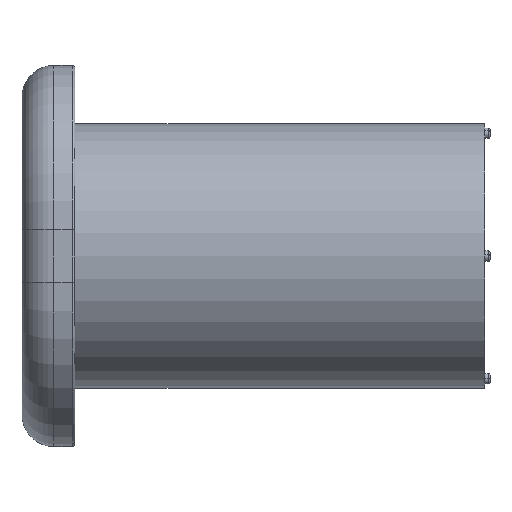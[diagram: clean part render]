
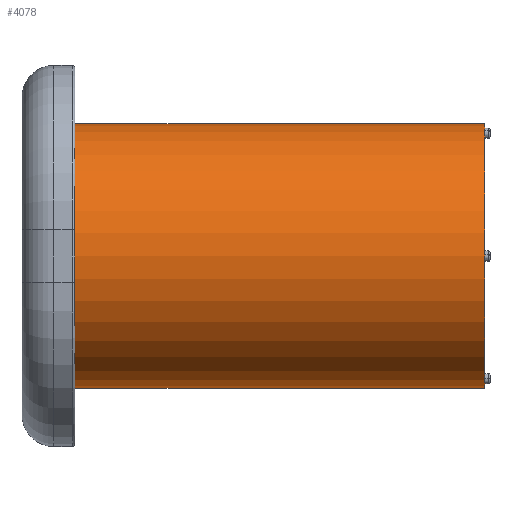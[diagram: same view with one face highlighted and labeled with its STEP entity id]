
A CAD part, left-side view. The second image highlights one B-rep face of the part: STEP entity #4078.
In plain terms, the highlighted cylindrical face has radius 125 mm (diameter 250 mm), a partial arc.
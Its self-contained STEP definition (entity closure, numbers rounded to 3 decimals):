
#2796 = VECTOR ( 'NONE', #38464, 1000. ) ;
#4078 = ADVANCED_FACE ( 'NONE', ( #90812 ), #74968, .T. ) ;
#7555 = DIRECTION ( 'NONE',  ( 0., 1., 0. ) ) ;
#8088 = CARTESIAN_POINT ( 'NONE',  ( -57.48, 222.693, 142.756 ) ) ;
#11030 = VECTOR ( 'NONE', #30263, 1000. ) ;
#15588 = CARTESIAN_POINT ( 'NONE',  ( -57.48, 222.693, 17.756 ) ) ;
#18135 = EDGE_CURVE ( 'NONE', #91763, #97501, #47866, .T. ) ;
#18886 = AXIS2_PLACEMENT_3D ( 'NONE', #55895, #55428, #47015 ) ;
#22368 = CARTESIAN_POINT ( 'NONE',  ( -57.48, -205.307, 142.756 ) ) ;
#24899 = CARTESIAN_POINT ( 'NONE',  ( -57.48, -202.307, -107.244 ) ) ;
#30080 = CARTESIAN_POINT ( 'NONE',  ( -57.48, -205.307, -107.244 ) ) ;
#30263 = DIRECTION ( 'NONE',  ( 0., 1., 0. ) ) ;
#33612 = VERTEX_POINT ( 'NONE', #24899 ) ;
#34699 = CARTESIAN_POINT ( 'NONE',  ( -57.48, 222.693, -107.244 ) ) ;
#37275 = CARTESIAN_POINT ( 'NONE',  ( -57.48, -205.307, 17.756 ) ) ;
#38464 = DIRECTION ( 'NONE',  ( 0., 1., 0. ) ) ;
#43845 = ORIENTED_EDGE ( 'NONE', *, *, #18135, .F. ) ;
#45546 = ORIENTED_EDGE ( 'NONE', *, *, #91120, .F. ) ;
#47015 = DIRECTION ( 'NONE',  ( 0., 0., -1. ) ) ;
#47866 = CIRCLE ( 'NONE', #82733, 125. ) ;
#51778 = DIRECTION ( 'NONE',  ( 0., 0., -1. ) ) ;
#55428 = DIRECTION ( 'NONE',  ( 0., 1., 0. ) ) ;
#55895 = CARTESIAN_POINT ( 'NONE',  ( -57.48, -202.307, 17.756 ) ) ;
#61481 = LINE ( 'NONE', #22368, #11030 ) ;
#63747 = EDGE_CURVE ( 'NONE', #67760, #97501, #61481, .T. ) ;
#67013 = EDGE_LOOP ( 'NONE', ( #43845, #45546, #79108, #94413 ) ) ;
#67760 = VERTEX_POINT ( 'NONE', #91879 ) ;
#74968 = CYLINDRICAL_SURFACE ( 'NONE', #88427, 125. ) ;
#76042 = DIRECTION ( 'NONE',  ( 0., 1., 0. ) ) ;
#77474 = CIRCLE ( 'NONE', #18886, 125. ) ;
#79108 = ORIENTED_EDGE ( 'NONE', *, *, #83163, .T. ) ;
#82733 = AXIS2_PLACEMENT_3D ( 'NONE', #15588, #76042, #51778 ) ;
#83163 = EDGE_CURVE ( 'NONE', #33612, #67760, #77474, .T. ) ;
#88427 = AXIS2_PLACEMENT_3D ( 'NONE', #37275, #7555, #97770 ) ;
#90055 = LINE ( 'NONE', #30080, #2796 ) ;
#90812 = FACE_OUTER_BOUND ( 'NONE', #67013, .T. ) ;
#91120 = EDGE_CURVE ( 'NONE', #33612, #91763, #90055, .T. ) ;
#91763 = VERTEX_POINT ( 'NONE', #34699 ) ;
#91879 = CARTESIAN_POINT ( 'NONE',  ( -57.48, -202.307, 142.756 ) ) ;
#94413 = ORIENTED_EDGE ( 'NONE', *, *, #63747, .T. ) ;
#97501 = VERTEX_POINT ( 'NONE', #8088 ) ;
#97770 = DIRECTION ( 'NONE',  ( 0., 0., -1. ) ) ;
